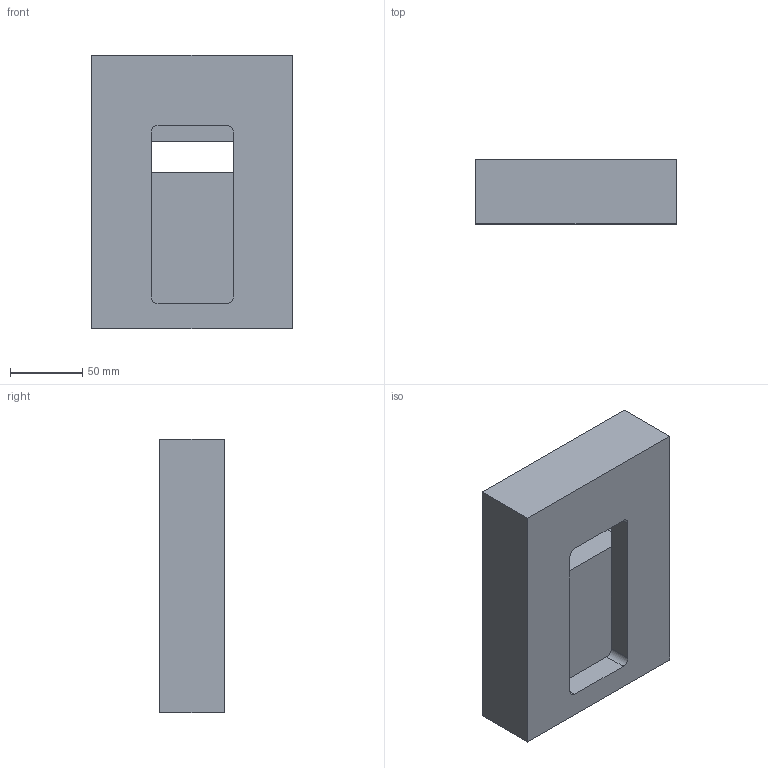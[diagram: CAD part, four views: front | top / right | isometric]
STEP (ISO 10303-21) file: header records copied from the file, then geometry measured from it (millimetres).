
FILE_DESCRIPTION (( 'STEP AP203' ), '1' );
FILE_NAME ('HDST ROUTING TEMPLATE.STEP', '2025-09-20T14:34:19', ( '' ), ( '' ), 'SwSTEP 2.0', 'SolidWorks 2020', '' );
FILE_SCHEMA (( 'CONFIG_CONTROL_DESIGN' ));
Length unit declared in the file: millimetre
Products named in the file (1): HDST ROUTING TEMPLATE
Bounding box: 138.59 x 44.45 x 189.06 mm (x, y, z)
Volume: 944007.1 mm3; surface area: 93413.3 mm2
Topology: 1 solids, 1 shells, 50 faces, 138 edges, 92 vertices
Faces by surface type: plane 30, cylinder 20
Entity records: 1683 total; most frequent: CARTESIAN_POINT 281, DIRECTION 280, ORIENTED_EDGE 276, EDGE_CURVE 138, VECTOR 98, LINE 98, VERTEX_POINT 92, AXIS2_PLACEMENT_3D 91
